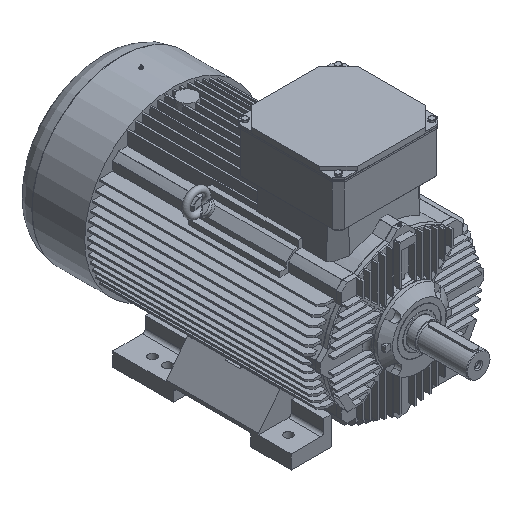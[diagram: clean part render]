
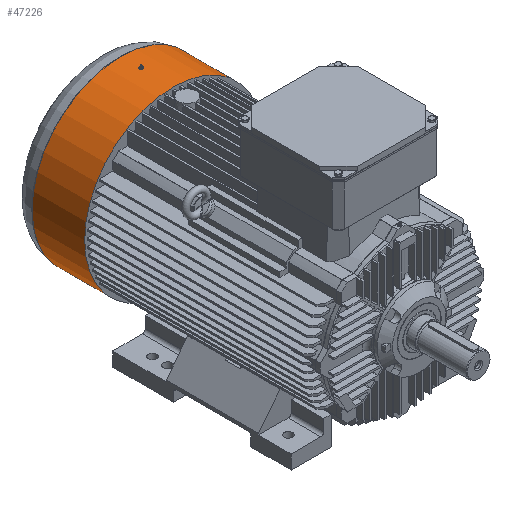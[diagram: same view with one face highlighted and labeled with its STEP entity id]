
A CAD part, isometric view. The second image highlights one B-rep face of the part: STEP entity #47226.
In plain terms, the highlighted cylindrical face has radius 298 mm (diameter 596 mm), a full revolution.
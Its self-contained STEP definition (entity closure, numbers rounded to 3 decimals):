
#2487=CIRCLE('',#49525,298.);
#2488=CIRCLE('',#49527,298.);
#6646=ORIENTED_EDGE('',*,*,#15875,.F.);
#6647=ORIENTED_EDGE('',*,*,#15874,.F.);
#15874=EDGE_CURVE('',#20696,#20696,#2487,.T.);
#15875=EDGE_CURVE('',#20697,#20697,#2488,.F.);
#20696=VERTEX_POINT('',#65662);
#20697=VERTEX_POINT('',#65665);
#29571=EDGE_LOOP('',(#6646));
#29572=EDGE_LOOP('',(#6647));
#31766=FACE_BOUND('',#29571,.T.);
#31767=FACE_BOUND('',#29572,.T.);
#33563=CYLINDRICAL_SURFACE('',#49526,298.);
#47226=ADVANCED_FACE('',(#31766,#31767),#33563,.T.);
#49525=AXIS2_PLACEMENT_3D('',#65661,#54993,#54994);
#49526=AXIS2_PLACEMENT_3D('',#65663,#54995,#54996);
#49527=AXIS2_PLACEMENT_3D('',#65664,#54997,#54998);
#54993=DIRECTION('',(0.,-1.,0.));
#54994=DIRECTION('',(0.,0.,1.));
#54995=DIRECTION('',(0.,-1.,0.));
#54996=DIRECTION('',(0.,0.,1.));
#54997=DIRECTION('',(0.,-1.,0.));
#54998=DIRECTION('',(1.,0.,0.));
#65661=CARTESIAN_POINT('',(0.,752.12,0.));
#65662=CARTESIAN_POINT('',(0.,752.12,298.));
#65663=CARTESIAN_POINT('',(0.,752.12,0.));
#65664=CARTESIAN_POINT('',(0.,930.,0.));
#65665=CARTESIAN_POINT('',(298.,930.,0.));
